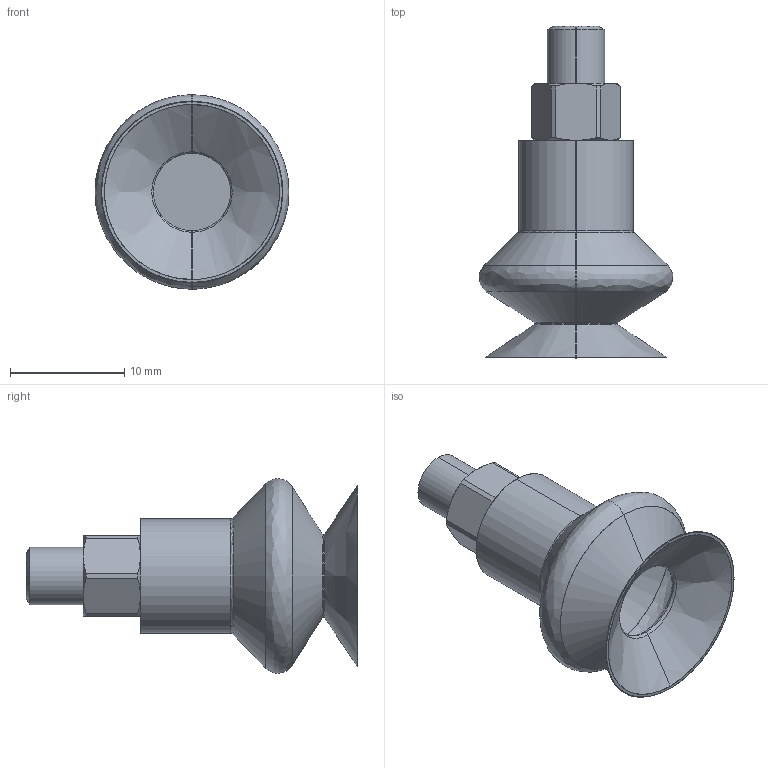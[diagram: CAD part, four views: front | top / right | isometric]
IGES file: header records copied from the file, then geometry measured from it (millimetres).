
Start section: SolidWorks IGES file using analytic representation for surfaces
Global section: file name: E:\eins\20070625石神\シュマルツ\SFSGAシリーズ\183876.IGS; native system: SolidWorks 2006 by SolidWorks Corporation; preprocessor: SolidWorks 2006 by SolidWorks Corporation; author: CAD54; date: 070625.173016; units: millimetre
Bounding box: 16.93 x 29 x 17 mm (x, y, z)
Surface area: 2334.3 mm2 (no closed solid volume)
Topology: 0 solids, 0 shells, 70 faces, 644 edges, 644 vertices
Faces by surface type: bspline 38, revolution 32
